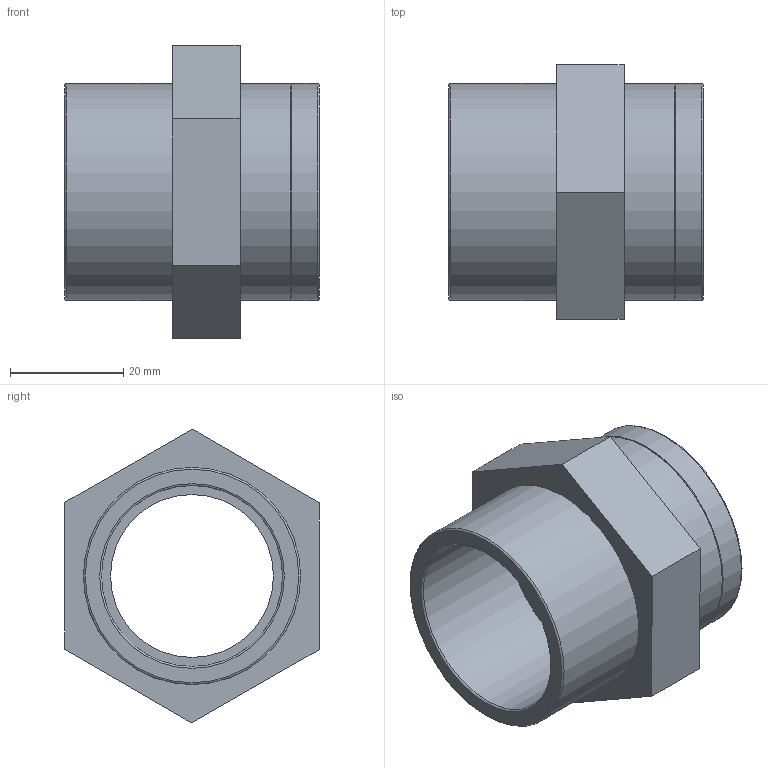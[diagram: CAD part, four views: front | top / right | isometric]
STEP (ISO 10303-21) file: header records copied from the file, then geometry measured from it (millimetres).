
FILE_DESCRIPTION(/* description */ ('PLASSON AD. SOCKET REINF.PVC 32-1"'),/* implementation_level */ '2;1');
FILE_NAME(/* name */ 'C:\Dropbox\KIMPROJECTS-Inventor\99-16-3568-Processing\PVC Catalog 2017\057102\057102032010.ipt.stp',/* time_stamp */ '2017-12-07T16:05:24+02:00',/* author */ ('KIM'),/* organization */ (''),/* preprocessor_version */ 'ST-DEVELOPER v15.6',/* originating_system */ 'Autodesk Inventor 2015',/* authorisation */ '');
FILE_SCHEMA (('AP203_CONFIGURATION_CONTROLLED_3D_DESIGN_OF_MECHANICAL_PARTS_AND_ASSEMBLIES_MIM_LF','AUTOMOTIVE_DESIGN { 1 0 10303 214 3 1 1 }'));
Length unit declared in the file: millimetre
Products named in the file (1): 057102032010
Bounding box: 45 x 45.07 x 51.96 mm (x, y, z)
Volume: 25190.9 mm3; surface area: 12392.4 mm2
Topology: 1 solids, 1 shells, 24 faces, 47 edges, 29 vertices
Faces by surface type: plane 12, cylinder 6, torus 4, cone 2
Full cylindrical faces by diameter (mm): 28.8 x1, 30.291 x1, 32 x1, 38.4 x3
Entity records: 580 total; most frequent: DIRECTION 102, CARTESIAN_POINT 89, ORIENTED_EDGE 70, EDGE_LOOP 42, AXIS2_PLACEMENT_3D 42, EDGE_CURVE 35, VERTEX_POINT 29, FACE_OUTER_BOUND 24
